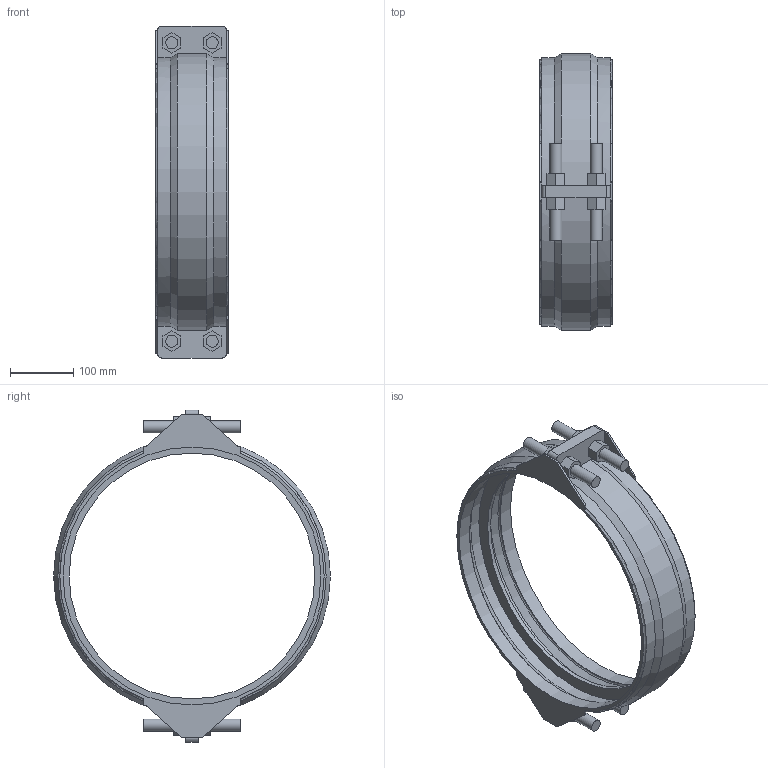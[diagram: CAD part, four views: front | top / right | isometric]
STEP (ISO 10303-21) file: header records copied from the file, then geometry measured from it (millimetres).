
FILE_DESCRIPTION(/* description */ ('VIC SS RESTRAINED COUPLING STYLE 234S (FLEX) (BRS)','CAx-IF Rec.Pracs.---Representation and Presentation of Product Manufacturing Information (PMI)---4.0---2014-10-13'),/* implementation_level */ '2;1');
FILE_NAME(/* name */ 'C:\Users\kkamble\AppData\Roaming\Autodesk\ApplicationPlugins\Back Up\Victaulic_VBSP_Coupling Flexible Restrained_Style 234S (BRS)\Victaulic_VBSP_Coupling Flexible Restrained_Style 234S (BRS)_200psi_16 (400).stp',/* time_stamp */ '2020-09-22T18:40:52+05:00',/* author */ ('Vjadhav'),/* organization */ ('Victaulic'),/* preprocessor_version */ 'ST-DEVELOPER v17.2',/* originating_system */ 'Autodesk Inventor 2019',/* authorisation */ '');
FILE_SCHEMA (('AP242_MANAGED_MODEL_BASED_3D_ENGINEERING_MIM_LF { 1 0 10303 442 1 1 4 }'));
Length unit declared in the file: inch
Products named in the file (1): Style_234S_Type_2_200psi-16.0
Bounding box: 114.3 x 436.11 x 523.24 mm (x, y, z)
Volume: 1558710.4 mm3; surface area: 476139.5 mm2
Topology: 1 solids, 1 shells, 155 faces, 393 edges, 260 vertices
Faces by surface type: plane 104, cylinder 39, torus 6, cone 6
Full cylindrical faces by diameter (mm): 19.05 x8, 387.35 x1, 406.4 x2, 426.583 x2
Entity records: 5026 total; most frequent: CARTESIAN_POINT 914, DIRECTION 825, ORIENTED_EDGE 786, EDGE_CURVE 393, AXIS2_PLACEMENT_3D 279, LINE 267, VECTOR 267, VERTEX_POINT 260
